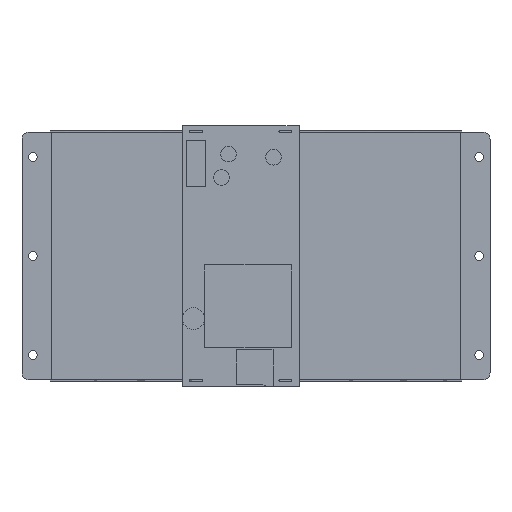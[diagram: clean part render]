
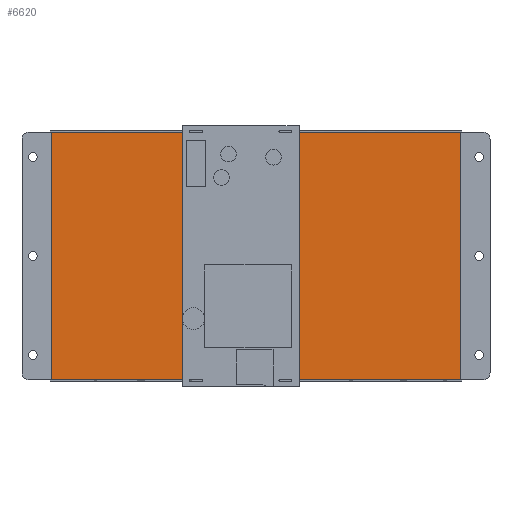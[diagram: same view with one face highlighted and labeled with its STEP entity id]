
A CAD part, front view. The second image highlights one B-rep face of the part: STEP entity #6620.
In plain terms, the highlighted planar face has unit normal (0, -1, 0).
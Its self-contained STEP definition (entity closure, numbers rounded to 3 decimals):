
#2357=DIRECTION('',(0.,0.,1.));
#2358=VECTOR('',#2357,100.);
#2359=CARTESIAN_POINT('',(-82.45,-3.45,-50.));
#2360=LINE('',#2359,#2358);
#2361=DIRECTION('',(1.,0.,0.));
#2362=VECTOR('',#2361,164.9);
#2363=CARTESIAN_POINT('',(-82.45,-3.45,50.));
#2364=LINE('',#2363,#2362);
#2365=DIRECTION('',(0.,0.,-1.));
#2366=VECTOR('',#2365,100.);
#2367=CARTESIAN_POINT('',(82.45,-3.45,50.));
#2368=LINE('',#2367,#2366);
#2369=DIRECTION('',(-1.,0.,0.));
#2370=VECTOR('',#2369,164.9);
#2371=CARTESIAN_POINT('',(82.45,-3.45,-50.));
#2372=LINE('',#2371,#2370);
#3421=CARTESIAN_POINT('',(-82.45,-3.45,-50.));
#3422=CARTESIAN_POINT('',(-82.45,-3.45,50.));
#3423=VERTEX_POINT('',#3421);
#3424=VERTEX_POINT('',#3422);
#3425=CARTESIAN_POINT('',(82.45,-3.45,50.));
#3426=VERTEX_POINT('',#3425);
#3427=CARTESIAN_POINT('',(82.45,-3.45,-50.));
#3428=VERTEX_POINT('',#3427);
#6609=CARTESIAN_POINT('',(83.05,-3.45,-50.6));
#6610=DIRECTION('',(0.,1.,0.));
#6611=DIRECTION('',(1.,0.,0.));
#6612=AXIS2_PLACEMENT_3D('',#6609,#6610,#6611);
#6613=PLANE('',#6612);
#6614=ORIENTED_EDGE('',*,*,#6561,.T.);
#6615=ORIENTED_EDGE('',*,*,#6576,.T.);
#6616=ORIENTED_EDGE('',*,*,#6590,.T.);
#6617=ORIENTED_EDGE('',*,*,#6603,.T.);
#6618=EDGE_LOOP('',(#6614,#6615,#6616,#6617));
#6619=FACE_OUTER_BOUND('',#6618,.F.);
#6561=EDGE_CURVE('',#3423,#3424,#2360,.T.);
#6576=EDGE_CURVE('',#3424,#3426,#2364,.T.);
#6590=EDGE_CURVE('',#3426,#3428,#2368,.T.);
#6603=EDGE_CURVE('',#3428,#3423,#2372,.T.);
#6620=ADVANCED_FACE('',(#6619),#6613,.F.);
